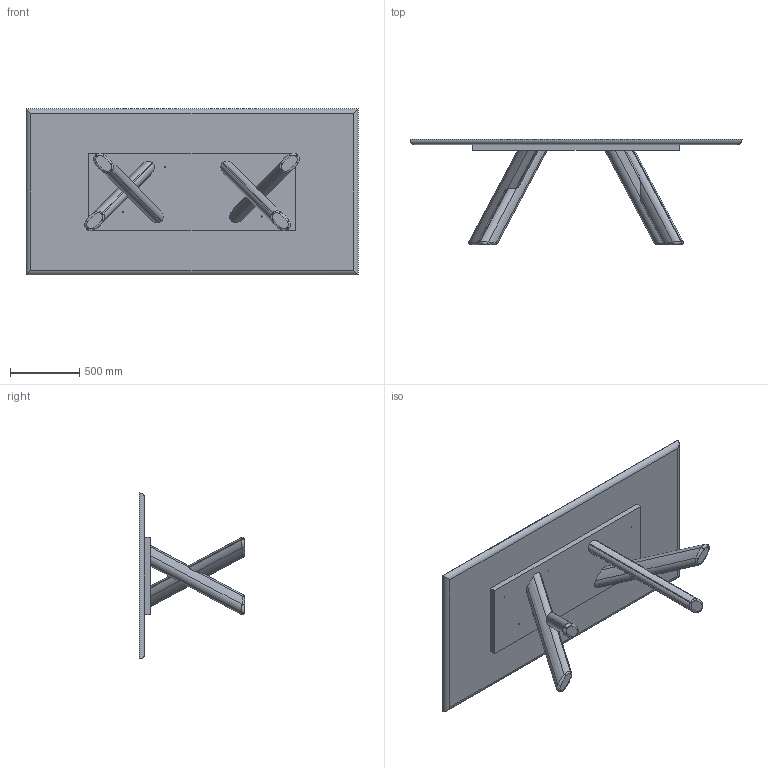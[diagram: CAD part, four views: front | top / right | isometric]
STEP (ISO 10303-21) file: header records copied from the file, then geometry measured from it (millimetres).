
FILE_DESCRIPTION (( 'STEP AP203' ), '1' );
FILE_NAME ('CN23W_CANOVA_top legno 240x120x76h.STEP', '2025-04-15T07:09:48', ( '' ), ( '' ), 'SwSTEP 2.0', 'SolidWorks 2022', '' );
FILE_SCHEMA (( 'CONFIG_CONTROL_DESIGN' ));
Length unit declared in the file: millimetre
Products named in the file (5): CAMP_00058-00-Gamba in legno Interna_leggero; CAMP_00056-00-Assieme Basamento con gambe in legno incrociate_leggero; CN23W_CANOVA_top legno 240x120x76h; PIANI_modello 3D x web_Legno 240x120; CAMP_00057-00-Gamba in legno Esterna_leggero
Assembly tree (5 placements, depth 3):
  CN23W_CANOVA_top legno 240x120x76h
    PIANI_modello 3D x web_Legno 240x120
    CAMP_00056-00-Assieme Basamento con gambe in legno incrociate_leggero  x2
      CAMP_00057-00-Gamba in legno Esterna_leggero
      CAMP_00058-00-Gamba in legno Interna_leggero
Bounding box: 2400 x 760 x 1200 mm (x, y, z)
Volume: 178934417.8 mm3; surface area: 9214850.3 mm2
Topology: 6 solids, 6 shells, 164 faces, 394 edges, 248 vertices
Faces by surface type: cylinder 94, bspline 36, plane 26, cone 8
Entity records: 4304 total; most frequent: CARTESIAN_POINT 1600, ORIENTED_EDGE 486, DIRECTION 417, EDGE_CURVE 243, AXIS2_PLACEMENT_3D 165, VERTEX_POINT 154, EDGE_LOOP 123, FACE_OUTER_BOUND 100
